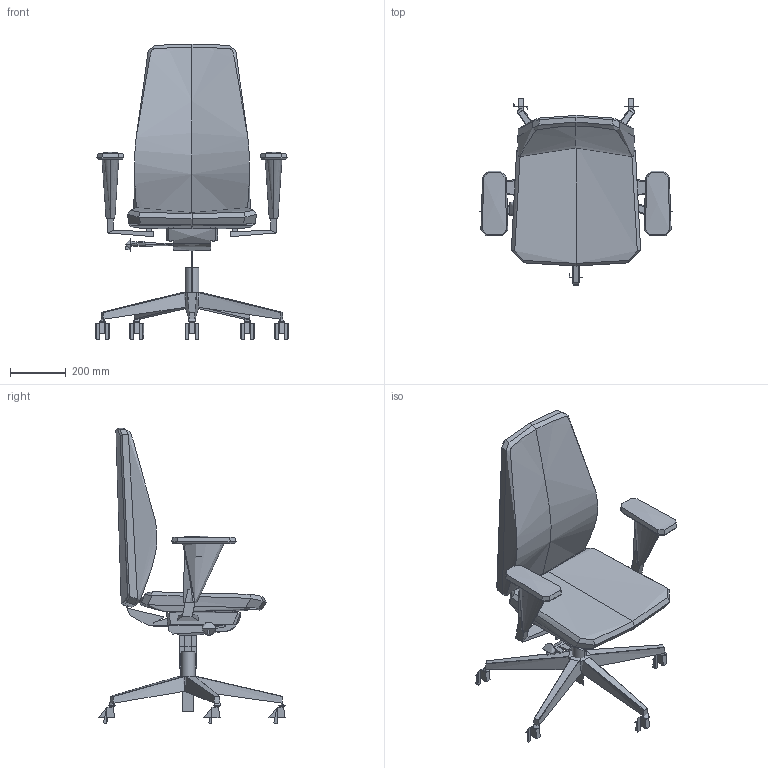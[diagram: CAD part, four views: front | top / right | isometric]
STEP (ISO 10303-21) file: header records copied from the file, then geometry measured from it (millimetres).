
FILE_DESCRIPTION(/* description */ (''),/* implementation_level */ '2;1');
FILE_NAME(/* name */ 'ALVA 330,SYA,BR-211',/* time_stamp */ '2022-03-22T13:48:42+01:00',/* author */ (''),/* organization */ (''),/* preprocessor_version */ 'ST-DEVELOPER v16.5',/* originating_system */ 'Rhino 7.15',/* authorisation */ '');
FILE_SCHEMA (('CONFIG_CONTROL_DESIGN'));
Length unit declared in the file: millimetre
Products named in the file (1): Document
Bounding box: 694.82 x 672.19 x 1063.87 mm (x, y, z)
Volume: 15955631.1 mm3; surface area: 1951763.8 mm2
Topology: 9 solids, 54 shells, 424 faces, 1043 edges, 630 vertices
Faces by surface type: bspline 239, plane 106, cylinder 79
Entity records: 35472 total; most frequent: CARTESIAN_POINT 29289, ORIENTED_EDGE 1871, EDGE_CURVE 1021, VERTEX_POINT 628, B_SPLINE_CURVE_WITH_KNOTS 526, EDGE_LOOP 426, ADVANCED_FACE 424, FACE_OUTER_BOUND 424
